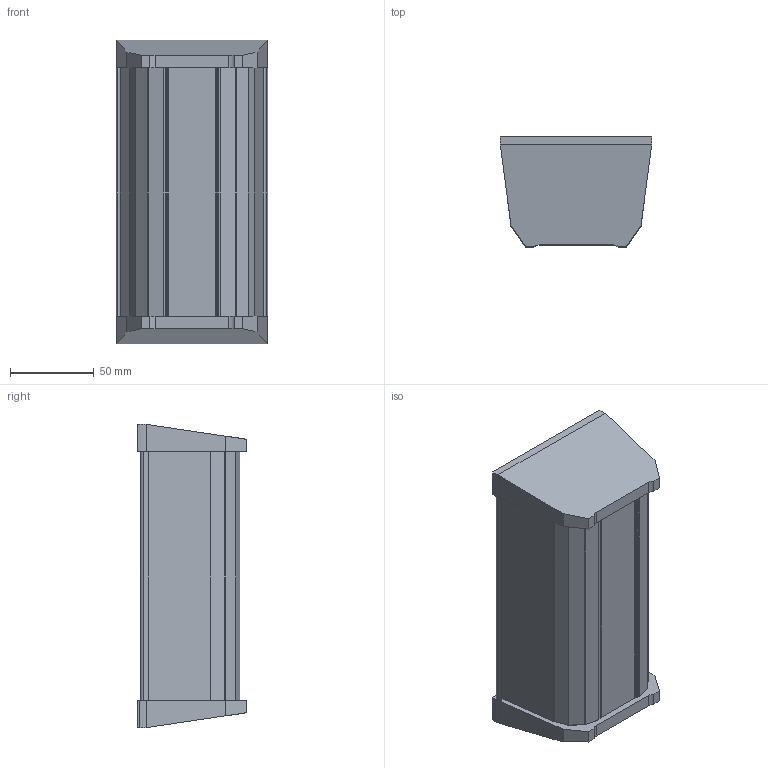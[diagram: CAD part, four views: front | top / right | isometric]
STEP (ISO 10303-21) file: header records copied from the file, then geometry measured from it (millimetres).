
FILE_DESCRIPTION (( 'STEP AP214' ), '1' );
FILE_NAME ('Besteckschale NL180 L181.step', '2010-09-21T13:13:26', ( 'grass' ), ( '' ), 'SwSTEP 2.0', 'SolidWorks 2010', '' );
FILE_SCHEMA (( 'AUTOMOTIVE_DESIGN' ));
Length unit declared in the file: millimetre
Products named in the file (1): Besteckschale NL180 L181
Bounding box: 90.5 x 65.5 x 181 mm (x, y, z)
Volume: 61731.1 mm3; surface area: 84816.2 mm2
Topology: 1 solids, 1 shells, 112 faces, 324 edges, 216 vertices
Faces by surface type: plane 80, cylinder 32
Entity records: 3702 total; most frequent: CARTESIAN_POINT 677, ORIENTED_EDGE 648, DIRECTION 602, EDGE_CURVE 324, LINE 256, VECTOR 256, VERTEX_POINT 216, AXIS2_PLACEMENT_3D 173
